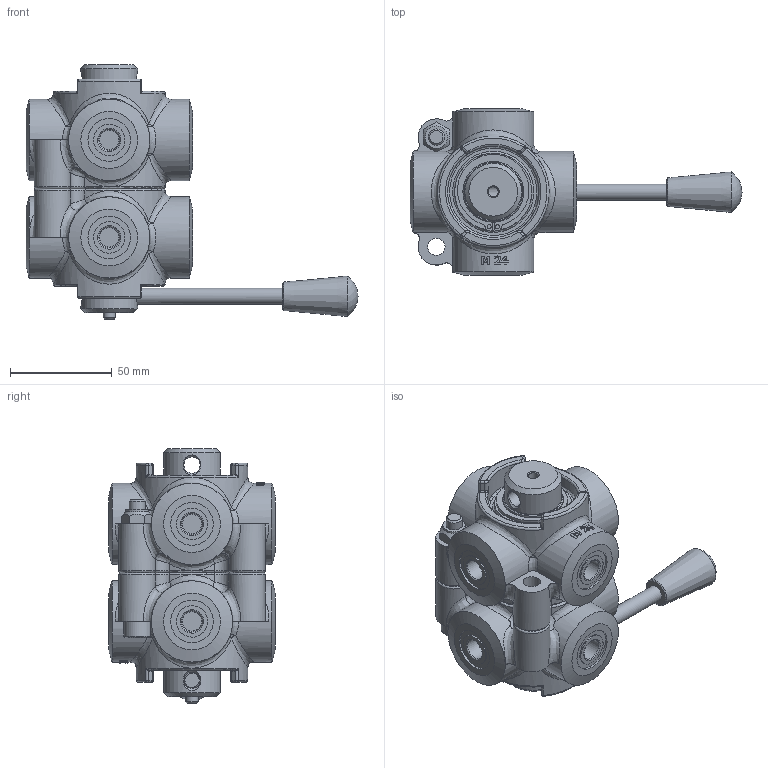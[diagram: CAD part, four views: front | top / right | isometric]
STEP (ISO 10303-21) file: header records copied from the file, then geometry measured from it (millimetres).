
FILE_DESCRIPTION((''),'2;1');
FILE_NAME('G:\HV_HYDRAULIC\AZIENDA_HV_HYDRAULIC\ARCHIVIO_DISEGNI\5_PRODOTTI_FINITI\2_DEVIATORI_INVERTITORI\7005_D8\7005.0104_D8_1-4_G_ca_(HV)\7005.0104.stp','2024-08-30T08:47:36',('christian.scardovi'),(''),'Autodesk Inventor 2013','Autodesk Inventor 2013','');
FILE_SCHEMA(('AUTOMOTIVE_DESIGN { 1 0 10303 214 1 1 1 1 }'));
Length unit declared in the file: millimetre
Products named in the file (1): 7005.0104
Bounding box: 163.5 x 82 x 125.25 mm (x, y, z)
Volume: 421397.9 mm3; surface area: 55896.8 mm2
Topology: 1 solids, 1 shells, 516 faces, 1208 edges, 718 vertices
Faces by surface type: plane 156, cylinder 137, bspline 86, torus 85, cone 31, sphere 21
Full cylindrical faces by diameter (mm): 2 x4, 4.917 x1, 6 x1, 8 x4, 8.5 x1, 10.5 x8, 11.05 x1, 13 x1, 15.5 x8, 21 x8, 28 x2, 28.6 x2, 29.9 x2, 38 x2, 40 x8, 45 x2
Entity records: 24145 total; most frequent: CARTESIAN_POINT 12998, ORIENTED_EDGE 2110, DIRECTION 2095, EDGE_CURVE 1055, AXIS2_PLACEMENT_3D 917, VERTEX_POINT 698, EDGE_LOOP 681, FACE_OUTER_BOUND 516
